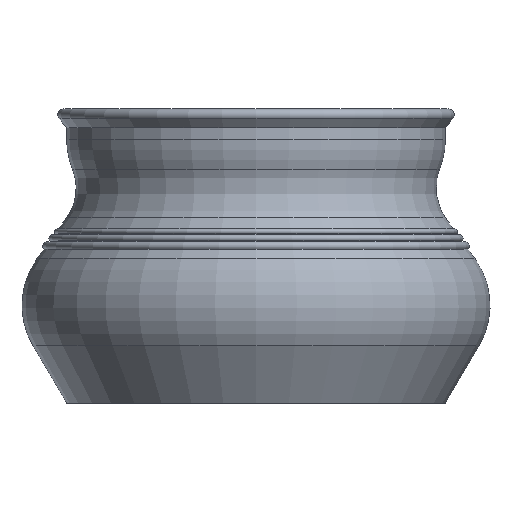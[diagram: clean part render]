
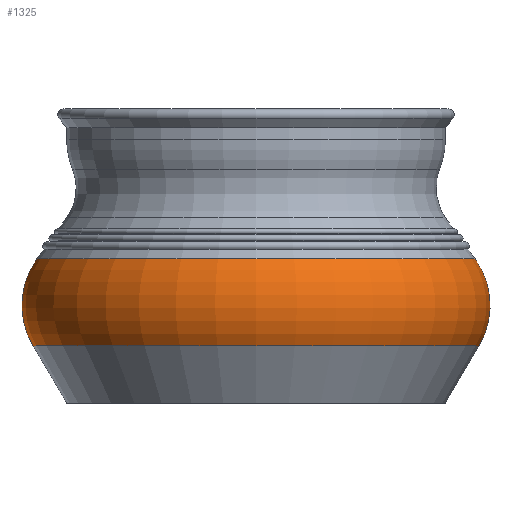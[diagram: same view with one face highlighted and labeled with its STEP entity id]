
A CAD part, front view. The second image highlights one B-rep face of the part: STEP entity #1325.
In plain terms, the highlighted toroidal (fillet/blend) face has major radius 131.473 mm and minor radius 67.527 mm.
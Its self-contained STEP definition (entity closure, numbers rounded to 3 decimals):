
#22=TOROIDAL_SURFACE('',#1505,131.473,67.527);
#166=FACE_OUTER_BOUND('',#284,.T.);
#284=EDGE_LOOP('',(#1208,#1209,#1210,#1211));
#526=CIRCLE('',#1467,189.68);
#549=CIRCLE('',#1506,186.242);
#550=CIRCLE('',#1507,67.527);
#653=VERTEX_POINT('',#2240);
#669=VERTEX_POINT('',#2303);
#818=EDGE_CURVE('',#653,#653,#526,.T.);
#849=EDGE_CURVE('',#669,#669,#549,.T.);
#850=EDGE_CURVE('',#669,#653,#550,.T.);
#1208=ORIENTED_EDGE('',*,*,#849,.F.);
#1209=ORIENTED_EDGE('',*,*,#850,.T.);
#1210=ORIENTED_EDGE('',*,*,#818,.T.);
#1211=ORIENTED_EDGE('',*,*,#850,.F.);
#1325=ADVANCED_FACE('',(#166),#22,.T.);
#1467=AXIS2_PLACEMENT_3D('',#2241,#1837,#1838);
#1505=AXIS2_PLACEMENT_3D('',#2302,#1921,#1922);
#1506=AXIS2_PLACEMENT_3D('',#2304,#1923,#1924);
#1507=AXIS2_PLACEMENT_3D('',#2305,#1925,#1926);
#1837=DIRECTION('center_axis',(0.,0.,1.));
#1838=DIRECTION('ref_axis',(1.,0.,0.));
#1921=DIRECTION('center_axis',(0.,0.,1.));
#1922=DIRECTION('ref_axis',(1.,0.,0.));
#1923=DIRECTION('center_axis',(0.,0.,1.));
#1924=DIRECTION('ref_axis',(1.,0.,0.));
#1925=DIRECTION('center_axis',(0.,-1.,0.));
#1926=DIRECTION('ref_axis',(-1.,0.,0.));
#2240=CARTESIAN_POINT('',(-189.68,0.,48.768));
#2241=CARTESIAN_POINT('Origin',(0.,0.,48.768));
#2302=CARTESIAN_POINT('Origin',(0.,0.,83.));
#2303=CARTESIAN_POINT('',(-186.242,0.,122.5));
#2304=CARTESIAN_POINT('Origin',(0.,0.,122.5));
#2305=CARTESIAN_POINT('Origin',(-131.473,0.,
83.));
